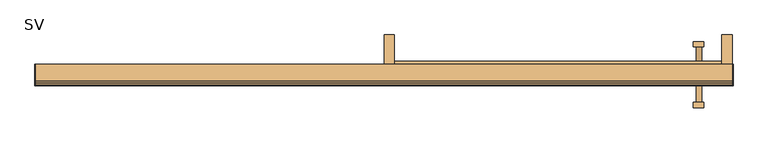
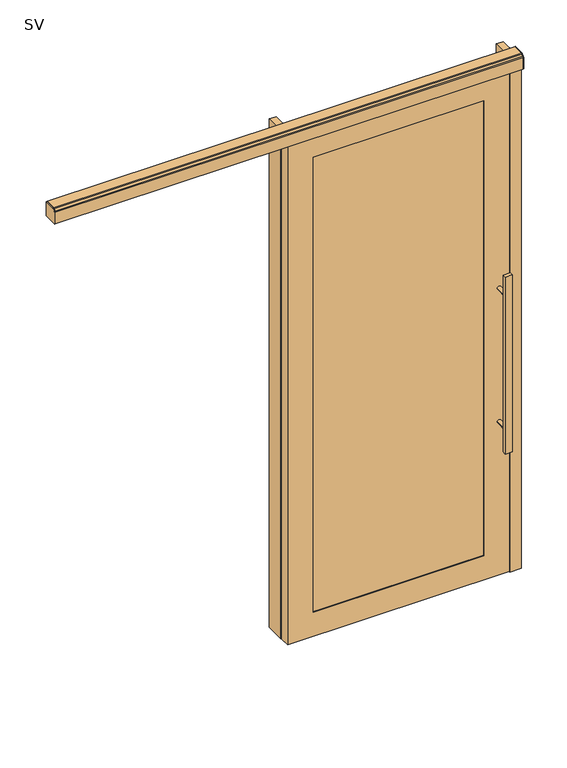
"""IFC4 building model written with IfcOpenShell, lengths in millimetres: door geometry, Mobiliário_Mobiliário de Escritório_Porta Simples de Correr com Vidro Duplo - SV_Marelli : SV."""

from ifc_helpers import new_model, si_unit, point, frame, frame_2d, origin, origin_with_axes, place, context, project, spatial, polyline, circle_curve, trimmed, segment, composite_curve, outline, extrude, source, transform, mapped, element, save


def sv_f2a23781(model_context):
    return source(origin(), model_context, "Body", "SweptSolid", [
        extrude(outline(polyline([(-500.0, -15.0), (-470.0, -15.0), (-470.0, -100.0), (-500.0, -100.0), (-500.0, -15.0)])), origin_with_axes(), (0.0, 0.0, 1.0), 2300.0),
        extrude(outline(polyline([(500.0, -15.0), (500.0, -100.0), (470.0, -100.0), (470.0, -15.0), (500.0, -15.0)])), origin_with_axes(), (0.0, 0.0, 1.0), 2300.0),
        extrude(outline(polyline([(500.0, -100.0), (500.0, -150.0), (450.0, -150.0), (450.0, -100.0), (500.0, -100.0)])), origin_with_axes(), (0.0, 0.0, 1.0), 2280.0),
        extrude(outline(polyline([(388.9, -223.7), (388.9, -208.7), (418.9, -208.7), (418.9, -223.7), (388.9, -223.7)])), frame((0.0, 0.0, 600.0), z_axis=(0.0, 0.0, 1.0), x_axis=(1.0, 0.0, 0.0)), (0.0, 0.0, 1.0), 800.0),
        extrude(outline(composite_curve([segment(trimmed(circle_curve(frame_2d((698.0, 405.0278633)), 8.0), [point((698.0, 397.0278633))], [point((698.0, 413.0278633))], False, "CARTESIAN"), True, "CONTINUOUS"), segment(trimmed(circle_curve(frame_2d((698.0, 405.0278633)), 8.0), [point((698.0, 413.0278633))], [point((698.0, 397.0278633))], False, "CARTESIAN"), True, "CONTINUOUS")], self_intersect=False)), frame((0.0, -208.7, 0.0), z_axis=(0.0, 1.0, 0.0), x_axis=(0.0, 0.0, 1.0)), (0.0, 0.0, 1.0), 58.7),
        extrude(outline(composite_curve([segment(trimmed(circle_curve(frame_2d((1302.0, 405.0278633)), 8.0), [point((1302.0, 397.0278633))], [point((1302.0, 413.0278633))], False, "CARTESIAN"), True, "CONTINUOUS"), segment(trimmed(circle_curve(frame_2d((1302.0, 405.0278633)), 8.0), [point((1302.0, 413.0278633))], [point((1302.0, 397.0278633))], False, "CARTESIAN"), True, "CONTINUOUS")], self_intersect=False)), frame((0.0, -208.7, 0.0), z_axis=(0.0, 1.0, 0.0), x_axis=(0.0, 0.0, 1.0)), (0.0, 0.0, 1.0), 58.7),
        extrude(outline(polyline([(388.9, -34.3), (418.9, -34.3), (418.9, -49.3), (388.9, -49.3), (388.9, -34.3)])), frame((0.0, 0.0, 600.0), z_axis=(0.0, 0.0, 1.0), x_axis=(1.0, 0.0, 0.0)), (0.0, 0.0, 1.0), 800.0),
        extrude(outline(composite_curve([segment(trimmed(circle_curve(frame_2d((698.0, 405.0278633)), 8.0), [point((698.0, 397.0278633))], [point((698.0, 413.0278633))], False, "CARTESIAN"), True, "CONTINUOUS"), segment(trimmed(circle_curve(frame_2d((698.0, 405.0278633)), 8.0), [point((698.0, 413.0278633))], [point((698.0, 397.0278633))], False, "CARTESIAN"), True, "CONTINUOUS")], self_intersect=False)), frame((0.0, -108.0, 0.0), z_axis=(0.0, 1.0, 0.0), x_axis=(0.0, 0.0, 1.0)), (0.0, 0.0, 1.0), 58.7),
        extrude(outline(composite_curve([segment(trimmed(circle_curve(frame_2d((1302.0, 405.0278633)), 8.0), [point((1302.0, 397.0278633))], [point((1302.0, 413.0278633))], False, "CARTESIAN"), True, "CONTINUOUS"), segment(trimmed(circle_curve(frame_2d((1302.0, 405.0278633)), 8.0), [point((1302.0, 413.0278633))], [point((1302.0, 397.0278633))], False, "CARTESIAN"), True, "CONTINUOUS")], self_intersect=False)), frame((0.0, -108.0, 0.0), z_axis=(0.0, 1.0, 0.0), x_axis=(0.0, 0.0, 1.0)), (0.0, 0.0, 1.0), 58.7),
        extrude(outline(polyline([(2280.0, -500.0), (3.0, -500.0), (3.0, 450.0), (2280.0, 450.0), (2280.0, -500.0)]), holes=[polyline([(2170.0, 340.0), (113.0, 340.0), (113.0, -390.0), (2170.0, -390.0), (2170.0, 340.0)])]), frame((0.0, -150.0, 0.0), z_axis=(0.0, 1.0, 0.0), x_axis=(0.0, 0.0, 1.0)), (0.0, 0.0, 1.0), 42.0),
        extrude(outline(polyline([(340.0, -147.5), (-390.0, -147.5), (-390.0, -141.5), (340.0, -141.5), (340.0, -147.5)])), frame((0.0, 0.0, 113.0), z_axis=(0.0, 0.0, 1.0), x_axis=(1.0, 0.0, 0.0)), (0.0, 0.0, 1.0), 2057.0),
        extrude(outline(polyline([(-390.0, -110.5), (340.0, -110.5), (340.0, -116.5), (-390.0, -116.5), (-390.0, -110.5)])), frame((0.0, 0.0, 113.0), z_axis=(0.0, 0.0, 1.0), x_axis=(1.0, 0.0, 0.0)), (0.0, 0.0, 1.0), 2057.0),
        extrude(outline(polyline([(470.0, -90.0), (470.0, -100.0), (-470.0, -100.0), (-470.0, -90.0), (470.0, -90.0)])), frame((0.0, 0.0, 2270.0), z_axis=(0.0, 0.0, 1.0), x_axis=(1.0, 0.0, 0.0)), (0.0, 0.0, 1.0), 30.0),
        extrude(outline(composite_curve([segment(polyline([(-100.0, 2280.0), (-103.7, 2280.0), (-103.7, 2288.4), (-118.3, 2288.4), (-118.3, 2316.9), (-142.2, 2316.9), (-142.2, 2288.4), (-156.1, 2288.4), (-156.1, 2264.2), (-161.3, 2264.2), (-161.3, 2316.3833057)]), True, "CONTINUOUS"), segment(trimmed(circle_curve(frame_2d((-154.7488615, 2316.4864296)), 6.5519502), [point((-161.3, 2316.3833057))], [point((-159.3082964, 2321.1917036))], False, "CARTESIAN"), True, "CONTINUOUS"), segment(polyline([(-159.3082964, 2321.1917036), (-153.2917036, 2327.2082964)]), True, "CONTINUOUS"), segment(trimmed(circle_curve(frame_2d((-148.5864296, 2322.6488615)), 6.5519502), [point((-153.2917036, 2327.2082964))], [point((-148.4833057, 2329.2))], False, "CARTESIAN"), True, "CONTINUOUS"), segment(polyline([(-148.4833057, 2329.2), (-100.0, 2329.2), (-100.0, 2280.0)]), True, "CONTINUOUS")], self_intersect=False)), frame((-1500.0, 0.0, 0.0), z_axis=(1.0, 0.0, 0.0), x_axis=(0.0, 1.0, 0.0)), (0.0, 0.0, 1.0), 2000.0),
        extrude(outline(composite_curve([segment(polyline([(-100.0, 2264.2), (-161.3, 2264.2), (-161.3, 2316.3833057)]), True, "CONTINUOUS"), segment(trimmed(circle_curve(frame_2d((-154.7488615, 2316.4864296)), 6.5519502), [point((-161.3, 2316.3833057))], [point((-159.3082964, 2321.1917036))], False, "CARTESIAN"), True, "CONTINUOUS"), segment(polyline([(-159.3082964, 2321.1917036), (-153.2917036, 2327.2082964)]), True, "CONTINUOUS"), segment(trimmed(circle_curve(frame_2d((-148.5864296, 2322.6488615)), 6.5519502), [point((-153.2917036, 2327.2082964))], [point((-148.4833057, 2329.2))], False, "CARTESIAN"), True, "CONTINUOUS"), segment(polyline([(-148.4833057, 2329.2), (-100.0, 2329.2), (-100.0, 2264.2)]), True, "CONTINUOUS")], self_intersect=False)), frame((500.0, 0.0, 0.0), z_axis=(1.0, 0.0, 0.0), x_axis=(0.0, 1.0, 0.0)), (0.0, 0.0, 1.0), 3.0),
        extrude(outline(composite_curve([segment(polyline([(-100.0, 2264.2), (-161.3, 2264.2), (-161.3, 2316.3833057)]), True, "CONTINUOUS"), segment(trimmed(circle_curve(frame_2d((-154.7488615, 2316.4864296)), 6.5519502), [point((-161.3, 2316.3833057))], [point((-159.3082964, 2321.1917036))], False, "CARTESIAN"), True, "CONTINUOUS"), segment(polyline([(-159.3082964, 2321.1917036), (-153.2917036, 2327.2082964)]), True, "CONTINUOUS"), segment(trimmed(circle_curve(frame_2d((-148.5864296, 2322.6488615)), 6.5519502), [point((-153.2917036, 2327.2082964))], [point((-148.4833057, 2329.2))], False, "CARTESIAN"), True, "CONTINUOUS"), segment(polyline([(-148.4833057, 2329.2), (-100.0, 2329.2), (-100.0, 2264.2)]), True, "CONTINUOUS")], self_intersect=False)), frame((-1503.0, 0.0, 0.0), z_axis=(1.0, 0.0, 0.0), x_axis=(0.0, 1.0, 0.0)), (0.0, 0.0, 1.0), 3.0),
    ])


if __name__ == "__main__":
    model = new_model("IFC4")
    model_context = context("Model", 3, world=origin())
    ifc_project = project(units=[si_unit("LENGTHUNIT", "METRE", prefix="MILLI")], contexts=[model_context])
    site = spatial("IfcSite", under=ifc_project)
    building = spatial("IfcBuilding", under=site)
    placement = place(None, origin())
    sv_shape = sv_f2a23781(model_context)
    element("IfcDoor", 1, ObjectType="Mobiliário_Mobiliário de Escritório_Porta Simples de Correr com Vidro Duplo - SV_Marelli : SV", at=placement, inside=building, context=model_context, shape_type="MappedRepresentation", body=[
        mapped(sv_shape, transform((0.0, 0.0, 0.0), x_axis=(1.0, 0.0, 0.0), y_axis=(0.0, 1.0, 0.0), z_axis=(0.0, 0.0, 1.0))),
    ])
    save(model, "model.ifc")
